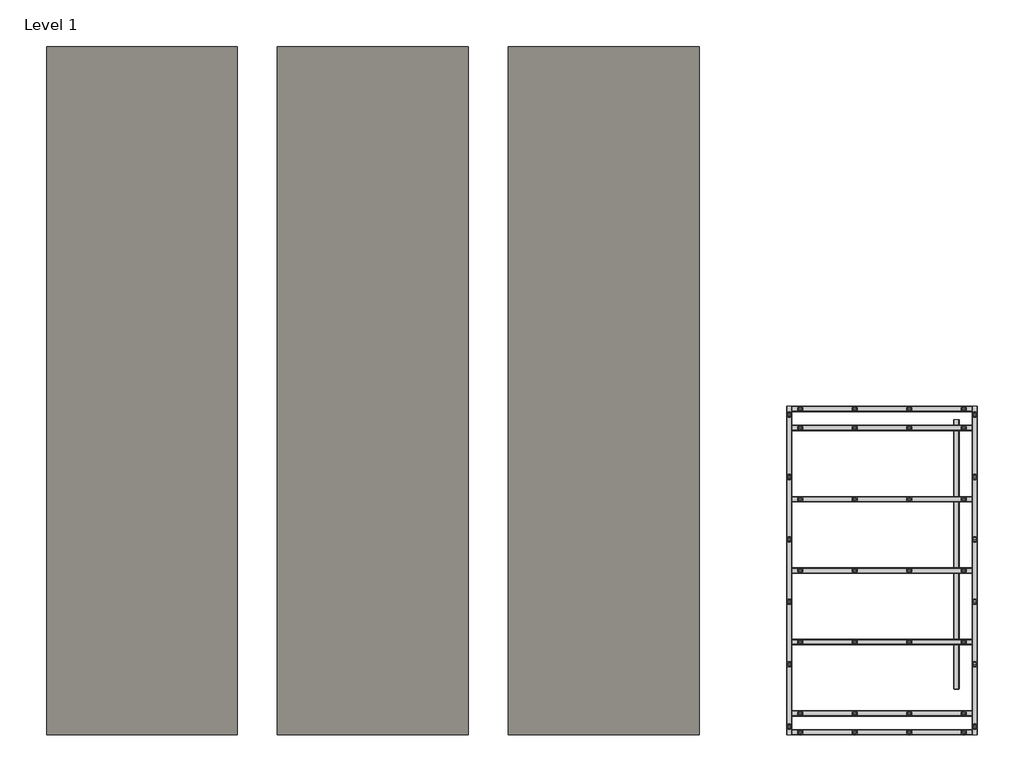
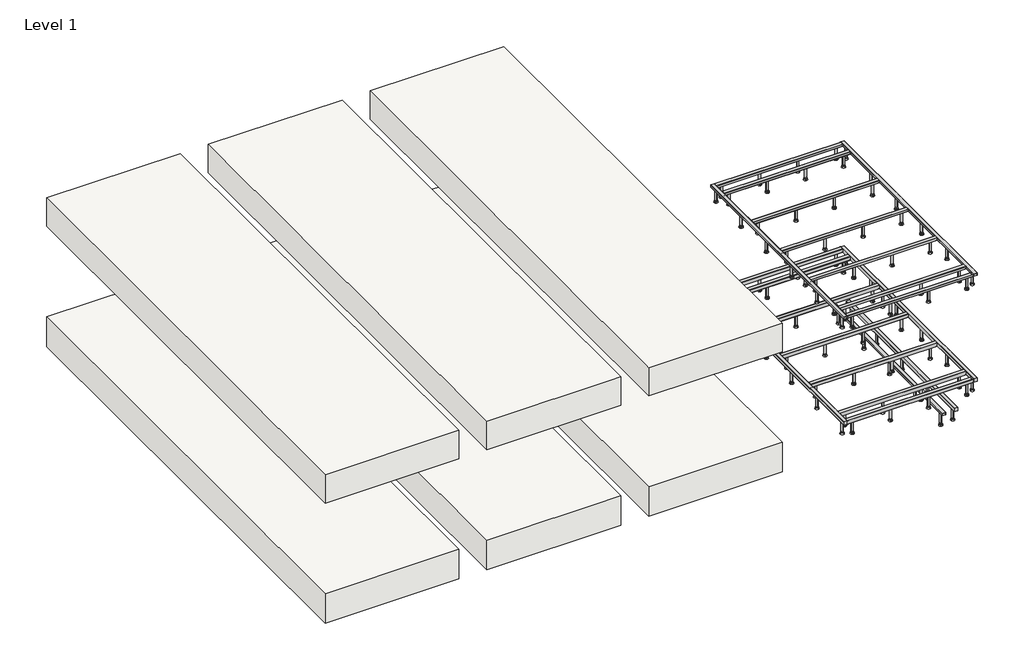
# One storey: 20 beams, 6 slabs.
"""IFC4 building model written with IfcOpenShell, lengths in millimetres."""

from ifc_helpers import new_model, si_unit, frame, origin, place, context, project, spatial, polyline, outline, extrude, transform, mapped, element, save
from components import subfloor_acoustic_joist_subfloor_wooden_joist_45x45x3600_bff0b988, subfloor_acoustic_joist_subfloor_wooden_joist_45x45x3600_29be24ae, subfloor_acoustic_joist_subfloor_wooden_joist_45x45x3600_03734fa0, subfloor_acoustic_steel_joist_subfloor_steel_joist_d2b55755, subfloor_acoustic_steel_joist_subfloor_steel_joist_1f226e23, subfloor_acoustic_steel_joist_subfloor_steel_joist_4f3b908a

model = new_model("IFC4")

# Units and contexts
model_context = context("Model", 3, world=origin())
ifc_project = project(units=[si_unit("LENGTHUNIT", "METRE", prefix="MILLI")], contexts=[model_context])

# Site, building, storey
site = spatial("IfcSite", under=ifc_project)
building = spatial("IfcBuilding", under=site)
storey = spatial("IfcBuildingStorey", under=building, Name="Level 1", Elevation=0.0)

# Beams
placement = place(None, origin())
subfloor_acoustic_joist_subfloor_wooden_joist_45x45x3600_shape = subfloor_acoustic_joist_subfloor_wooden_joist_45x45x3600_bff0b988(model_context)
element("IfcBeam", 1, ObjectType="Subfloor - Acoustic Joist - : Subfloor - Wooden Joist - 45x45x3600", at=placement, inside=storey, context=model_context, shape_type="MappedRepresentation", body=[
    mapped(subfloor_acoustic_joist_subfloor_wooden_joist_45x45x3600_shape, transform((20.8299645, -1485.7639012, -642.5), x_axis=(0.0, 1.0, 0.0), y_axis=(-1.0, 0.0, 0.0), z_axis=(0.0, 0.0, 1.0))),
])
subfloor_acoustic_joist_subfloor_wooden_joist_45x45x3600_2_shape = subfloor_acoustic_joist_subfloor_wooden_joist_45x45x3600_29be24ae(model_context)
element("IfcBeam", 2, ObjectType="Subfloor - Acoustic Joist - : Subfloor - Wooden Joist - 45x45x3600", at=placement, inside=storey, context=model_context, shape_type="MappedRepresentation", body=[
    mapped(subfloor_acoustic_joist_subfloor_wooden_joist_45x45x3600_2_shape, transform((-1539.1700355, -1700.8767163, -22.5), x_axis=(0.0, -1.0, 0.0), y_axis=(1.0, 0.0, 0.0), z_axis=(0.0, 0.0, 1.0))),
])
element("IfcBeam", 3, ObjectType="Subfloor - Acoustic Joist - : Subfloor - Wooden Joist - 45x45x3600", at=placement, inside=storey, context=model_context, shape_type="MappedRepresentation", body=[
    mapped(subfloor_acoustic_joist_subfloor_wooden_joist_45x45x3600_2_shape, transform((20.8299645, -1700.8767163, -22.5), x_axis=(0.0, -1.0, 0.0), y_axis=(1.0, 0.0, 0.0), z_axis=(0.0, 0.0, 1.0))),
])
subfloor_acoustic_joist_subfloor_wooden_joist_45x45x3600_3_shape = subfloor_acoustic_joist_subfloor_wooden_joist_45x45x3600_03734fa0(model_context)
element("IfcBeam", 4, ObjectType="Subfloor - Acoustic Joist - : Subfloor - Wooden Joist - 45x45x3600", at=placement, inside=storey, context=model_context, shape_type="MappedRepresentation", body=[
    mapped(subfloor_acoustic_joist_subfloor_wooden_joist_45x45x3600_3_shape, transform((-759.1700355, -3060.0186712, -22.5), x_axis=(1.0, 0.0, 0.0), y_axis=(0.0, 1.0, 0.0), z_axis=(0.0, 0.0, 1.0))),
])
element("IfcBeam", 5, ObjectType="Subfloor - Acoustic Joist - : Subfloor - Wooden Joist - 45x45x3600", at=placement, inside=storey, context=model_context, shape_type="MappedRepresentation", body=[
    mapped(subfloor_acoustic_joist_subfloor_wooden_joist_45x45x3600_3_shape, transform((-759.1700355, -341.7347613, -22.5), x_axis=(1.0, 0.0, 0.0), y_axis=(0.0, 1.0, 0.0), z_axis=(0.0, 0.0, 1.0))),
])
element("IfcBeam", 6, ObjectType="Subfloor - Acoustic Joist - : Subfloor - Wooden Joist - 45x45x3600", at=placement, inside=storey, context=model_context, shape_type="MappedRepresentation", body=[
    mapped(subfloor_acoustic_joist_subfloor_wooden_joist_45x45x3600_3_shape, transform((-759.1700355, -500.8767163, -22.5), x_axis=(1.0, 0.0, 0.0), y_axis=(0.0, 1.0, 0.0), z_axis=(0.0, 0.0, 1.0))),
])
element("IfcBeam", 7, ObjectType="Subfloor - Acoustic Joist - : Subfloor - Wooden Joist - 45x45x3600", at=placement, inside=storey, context=model_context, shape_type="MappedRepresentation", body=[
    mapped(subfloor_acoustic_joist_subfloor_wooden_joist_45x45x3600_3_shape, transform((-759.1700355, -1100.8767163, -22.5), x_axis=(1.0, 0.0, 0.0), y_axis=(0.0, 1.0, 0.0), z_axis=(0.0, 0.0, 1.0))),
])
element("IfcBeam", 8, ObjectType="Subfloor - Acoustic Joist - : Subfloor - Wooden Joist - 45x45x3600", at=placement, inside=storey, context=model_context, shape_type="MappedRepresentation", body=[
    mapped(subfloor_acoustic_joist_subfloor_wooden_joist_45x45x3600_3_shape, transform((-759.1700355, -1700.8767163, -22.5), x_axis=(1.0, 0.0, 0.0), y_axis=(0.0, 1.0, 0.0), z_axis=(0.0, 0.0, 1.0))),
])
element("IfcBeam", 9, ObjectType="Subfloor - Acoustic Joist - : Subfloor - Wooden Joist - 45x45x3600", at=placement, inside=storey, context=model_context, shape_type="MappedRepresentation", body=[
    mapped(subfloor_acoustic_joist_subfloor_wooden_joist_45x45x3600_3_shape, transform((-759.1700355, -2300.8767163, -22.5), x_axis=(1.0, 0.0, 0.0), y_axis=(0.0, 1.0, 0.0), z_axis=(0.0, 0.0, 1.0))),
])
element("IfcBeam", 10, ObjectType="Subfloor - Acoustic Joist - : Subfloor - Wooden Joist - 45x45x3600", at=placement, inside=storey, context=model_context, shape_type="MappedRepresentation", body=[
    mapped(subfloor_acoustic_joist_subfloor_wooden_joist_45x45x3600_3_shape, transform((-759.1700355, -2900.8767163, -22.5), x_axis=(1.0, 0.0, 0.0), y_axis=(0.0, 1.0, 0.0), z_axis=(0.0, 0.0, 1.0))),
])
subfloor_acoustic_steel_joist_subfloor_steel_joist_shape = subfloor_acoustic_steel_joist_subfloor_steel_joist_d2b55755(model_context)
element("IfcBeam", 11, ObjectType="Subfloor - Acoustic Steel Joist - : Subfloor - Steel Joist - 45x30x3600", at=placement, inside=storey, context=model_context, shape_type="MappedRepresentation", body=[
    mapped(subfloor_acoustic_steel_joist_subfloor_steel_joist_shape, transform((-134.1700355, -1495.7639012, -635.0), x_axis=(0.0, 1.0, 0.0), y_axis=(-1.0, 0.0, 0.0), z_axis=(0.0, 0.0, 1.0))),
])
subfloor_acoustic_steel_joist_subfloor_steel_joist_2_shape = subfloor_acoustic_steel_joist_subfloor_steel_joist_1f226e23(model_context)
element("IfcBeam", 12, ObjectType="Subfloor - Acoustic Steel Joist - : Subfloor - Steel Joist - 45x30x3600", at=placement, inside=storey, context=model_context, shape_type="MappedRepresentation", body=[
    mapped(subfloor_acoustic_steel_joist_subfloor_steel_joist_2_shape, transform((-1539.1700355, -1700.8767163, 1314.2813424), x_axis=(0.0, -1.0, 0.0), y_axis=(1.0, 0.0, 0.0), z_axis=(0.0, 0.0, 1.0))),
])
element("IfcBeam", 13, ObjectType="Subfloor - Acoustic Steel Joist - : Subfloor - Steel Joist - 45x30x3600", at=placement, inside=storey, context=model_context, shape_type="MappedRepresentation", body=[
    mapped(subfloor_acoustic_steel_joist_subfloor_steel_joist_2_shape, transform((20.8299645, -1700.8767163, 1314.2813424), x_axis=(0.0, -1.0, 0.0), y_axis=(1.0, 0.0, 0.0), z_axis=(0.0, 0.0, 1.0))),
])
subfloor_acoustic_steel_joist_subfloor_steel_joist_3_shape = subfloor_acoustic_steel_joist_subfloor_steel_joist_4f3b908a(model_context)
element("IfcBeam", 14, ObjectType="Subfloor - Acoustic Steel Joist - : Subfloor - Steel Joist - 45x30x3600", at=placement, inside=storey, context=model_context, shape_type="MappedRepresentation", body=[
    mapped(subfloor_acoustic_steel_joist_subfloor_steel_joist_3_shape, transform((-759.1700355, -3060.0186712, 1314.2813424), x_axis=(1.0, 0.0, 0.0), y_axis=(0.0, 1.0, 0.0), z_axis=(0.0, 0.0, 1.0))),
])
element("IfcBeam", 15, ObjectType="Subfloor - Acoustic Steel Joist - : Subfloor - Steel Joist - 45x30x3600", at=placement, inside=storey, context=model_context, shape_type="MappedRepresentation", body=[
    mapped(subfloor_acoustic_steel_joist_subfloor_steel_joist_3_shape, transform((-759.1700355, -341.7347613, 1314.2813424), x_axis=(1.0, 0.0, 0.0), y_axis=(0.0, 1.0, 0.0), z_axis=(0.0, 0.0, 1.0))),
])
element("IfcBeam", 16, ObjectType="Subfloor - Acoustic Steel Joist - : Subfloor - Steel Joist - 45x30x3600", at=placement, inside=storey, context=model_context, shape_type="MappedRepresentation", body=[
    mapped(subfloor_acoustic_steel_joist_subfloor_steel_joist_3_shape, transform((-759.1700355, -500.8767163, 1314.2813424), x_axis=(1.0, 0.0, 0.0), y_axis=(0.0, 1.0, 0.0), z_axis=(0.0, 0.0, 1.0))),
])
element("IfcBeam", 17, ObjectType="Subfloor - Acoustic Steel Joist - : Subfloor - Steel Joist - 45x30x3600", at=placement, inside=storey, context=model_context, shape_type="MappedRepresentation", body=[
    mapped(subfloor_acoustic_steel_joist_subfloor_steel_joist_3_shape, transform((-759.1700355, -1100.8767163, 1314.2813424), x_axis=(1.0, 0.0, 0.0), y_axis=(0.0, 1.0, 0.0), z_axis=(0.0, 0.0, 1.0))),
])
element("IfcBeam", 18, ObjectType="Subfloor - Acoustic Steel Joist - : Subfloor - Steel Joist - 45x30x3600", at=placement, inside=storey, context=model_context, shape_type="MappedRepresentation", body=[
    mapped(subfloor_acoustic_steel_joist_subfloor_steel_joist_3_shape, transform((-759.1700355, -1700.8767163, 1314.2813424), x_axis=(1.0, 0.0, 0.0), y_axis=(0.0, 1.0, 0.0), z_axis=(0.0, 0.0, 1.0))),
])
element("IfcBeam", 19, ObjectType="Subfloor - Acoustic Steel Joist - : Subfloor - Steel Joist - 45x30x3600", at=placement, inside=storey, context=model_context, shape_type="MappedRepresentation", body=[
    mapped(subfloor_acoustic_steel_joist_subfloor_steel_joist_3_shape, transform((-759.1700355, -2300.8767163, 1314.2813424), x_axis=(1.0, 0.0, 0.0), y_axis=(0.0, 1.0, 0.0), z_axis=(0.0, 0.0, 1.0))),
])
element("IfcBeam", 20, ObjectType="Subfloor - Acoustic Steel Joist - : Subfloor - Steel Joist - 45x30x3600", at=placement, inside=storey, context=model_context, shape_type="MappedRepresentation", body=[
    mapped(subfloor_acoustic_steel_joist_subfloor_steel_joist_3_shape, transform((-759.1700355, -2900.8767163, 1314.2813424), x_axis=(1.0, 0.0, 0.0), y_axis=(0.0, 1.0, 0.0), z_axis=(0.0, 0.0, 1.0))),
])

# Slabs
element("IfcSlab", 21, ObjectType="Subfloor - Wooden Joist - Hollowcore Structure", at=placement, inside=storey, context=model_context, shape_type="SweptSolid", body=[
    extrude(outline(polyline([(-4236.6700355, -3082.5186712), (-5841.6700355, -3082.5186712), (-5841.6700355, 2704.2360988), (-4236.6700355, 2704.2360988), (-4236.6700355, -3082.5186712)])), frame((0.0, 0.0, -375.0), z_axis=(0.0, 0.0, 1.0), x_axis=(1.0, 0.0, 0.0)), (0.0, 0.0, 1.0), 375.0),
])
element("IfcSlab", 22, ObjectType="Subfloor - Steel Joist - Hollowcore Structure", at=placement, inside=storey, context=model_context, shape_type="SweptSolid", body=[
    extrude(outline(polyline([(-4236.6700355, -3082.5186712), (-5841.6700355, -3082.5186712), (-5841.6700355, 2704.2360988), (-4236.6700355, 2704.2360988), (-4236.6700355, -3082.5186712)])), frame((0.0, 0.0, 1149.2813424), z_axis=(0.0, 0.0, 1.0), x_axis=(1.0, 0.0, 0.0)), (0.0, 0.0, 1.0), 360.0),
])
element("IfcSlab", 23, ObjectType="Subfloor - Steel Joist - Concrete Structure", at=placement, inside=storey, context=model_context, shape_type="SweptSolid", body=[
    extrude(outline(polyline([(-2296.6700355, -3082.5186712), (-3901.6700355, -3082.5186712), (-3901.6700355, 2704.2360988), (-2296.6700355, 2704.2360988), (-2296.6700355, -3082.5186712)])), frame((0.0, 0.0, 1149.2813424), z_axis=(0.0, 0.0, 1.0), x_axis=(1.0, 0.0, 0.0)), (0.0, 0.0, 1.0), 360.0),
])
element("IfcSlab", 24, ObjectType="Subfloor - Steel Joist - Cross Laminated Timber", at=placement, inside=storey, context=model_context, shape_type="SweptSolid", body=[
    extrude(outline(polyline([(-6176.6700355, -3082.5186712), (-7781.6700355, -3082.5186712), (-7781.6700355, 2704.2360988), (-6176.6700355, 2704.2360988), (-6176.6700355, -3082.5186712)])), frame((0.0, 0.0, 1149.2813424), z_axis=(0.0, 0.0, 1.0), x_axis=(1.0, 0.0, 0.0)), (0.0, 0.0, 1.0), 360.0),
])
element("IfcSlab", 25, ObjectType="Subfloor - Wooden Joist - Concrete Structure", at=placement, inside=storey, context=model_context, shape_type="SweptSolid", body=[
    extrude(outline(polyline([(-2296.6700355, -3082.5186712), (-3901.6700355, -3082.5186712), (-3901.6700355, 2704.2360988), (-2296.6700355, 2704.2360988), (-2296.6700355, -3082.5186712)])), frame((0.0, 0.0, -375.0), z_axis=(0.0, 0.0, 1.0), x_axis=(1.0, 0.0, 0.0)), (0.0, 0.0, 1.0), 375.0),
])
element("IfcSlab", 26, ObjectType="Subfloor - Wooden Joist - Cross Laminated Timber", at=placement, inside=storey, context=model_context, shape_type="SweptSolid", body=[
    extrude(outline(polyline([(-6176.6700355, -3082.5186712), (-7781.6700355, -3082.5186712), (-7781.6700355, 2704.2360988), (-6176.6700355, 2704.2360988), (-6176.6700355, -3082.5186712)])), frame((0.0, 0.0, -375.0), z_axis=(0.0, 0.0, 1.0), x_axis=(1.0, 0.0, 0.0)), (0.0, 0.0, 1.0), 375.0),
])

save(model, "model.ifc")
